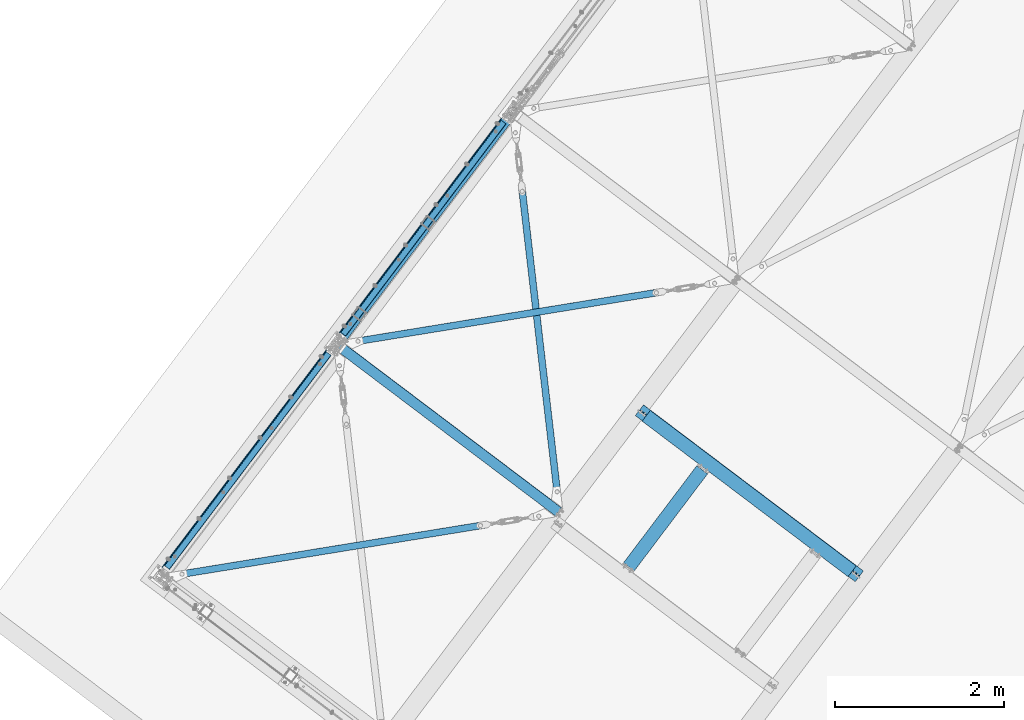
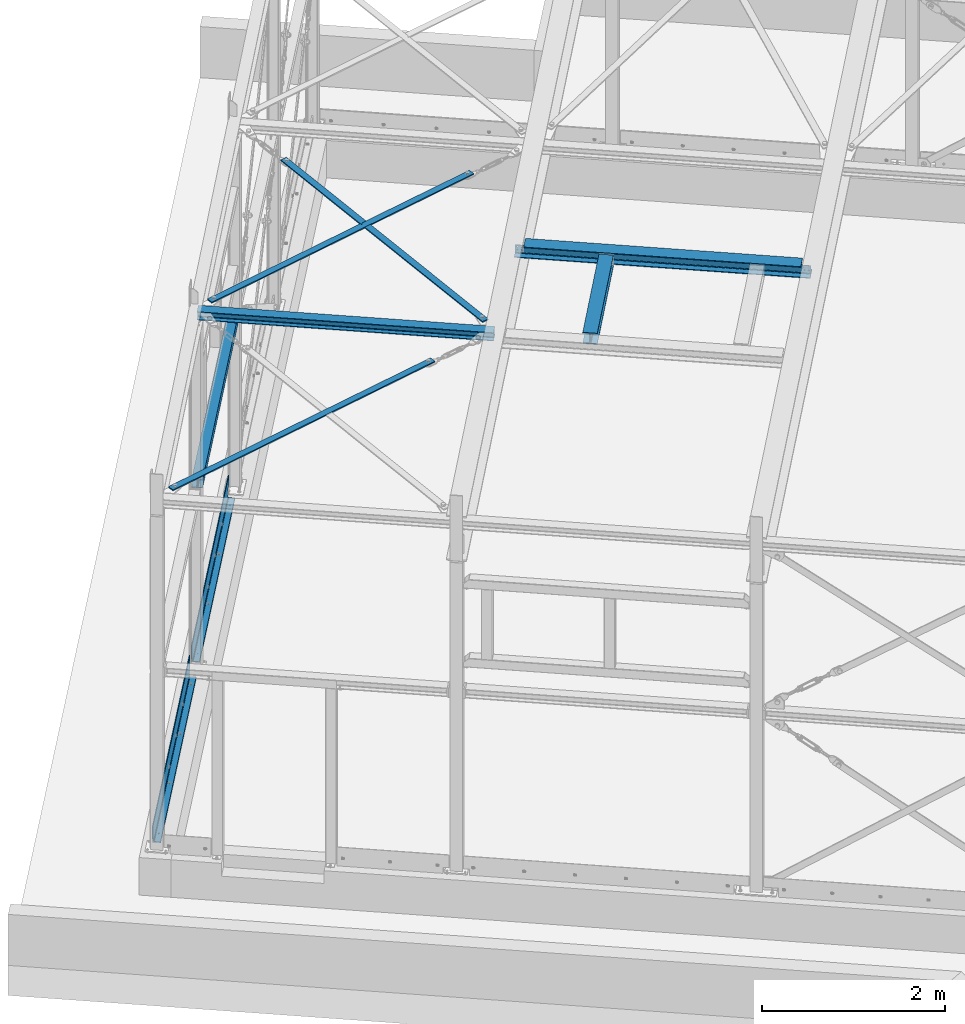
# One storey, part 21 of 476: 5 beams, 4 members, 40 openings.
"""IFC2X3 building model written with IfcOpenShell, lengths in millimetres."""

from ifc_helpers import new_model, entity, si_unit, converted_unit, point, frame, frame_2d, origin, origin_with_axes, origin_2d, origin_2d_with_axis, place, context, project, spatial, polyline, circle_curve, line_curve, trimmed, segment, composite_curve, rectangle, circle, i_section, l_section, outline, extrude, clip, halfspace, material, element, save


model = new_model("IFC2X3")

# Units and contexts
model_context = context("Model", 3, precision=1e-09, world=origin_with_axes())
ifc_project = project(units=[si_unit("LENGTHUNIT", "METRE", prefix="MILLI"), si_unit("AREAUNIT", "SQUARE_METRE"), si_unit("VOLUMEUNIT", "CUBIC_METRE"), converted_unit("PLANEANGLEUNIT", "DEGREE", entity("IfcPlaneAngleMeasure", 0.01745329), si_unit("PLANEANGLEUNIT", "RADIAN"), dimensions=[0, 0, 0, 0, 0, 0, 0])], contexts=[model_context])

# Site, building, storey
site_placement = place(None, origin_with_axes())
site = spatial("IfcSite", under=ifc_project, at=site_placement, Name="mKR Teilneubau & Sanierung BA1 - Ostfildern", CompositionType="ELEMENT")
building_placement = place(site_placement, origin_with_axes())
building = spatial("IfcBuilding", under=site, at=building_placement, Name="Struktur 1", CompositionType="ELEMENT")
storey_placement = place(building_placement, origin_with_axes())
storey = spatial("IfcBuildingStorey", under=building, at=storey_placement, Name="Default Storey", CompositionType="ELEMENT", Elevation=0.0)

# Member, openings
ifc_material = material(Name="S235JR")
member_1_placement = place(None, frame((6159.439711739, 3408.785102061, 5409.867566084), z_axis=(-0.986798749, -0.160487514, -0.021725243), x_axis=(0.018108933, 0.0239618, -0.999548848)))
member_1 = element("IfcMember", 1, at=member_1_placement, inside=storey, material=ifc_material, Name="-", ObjectType="-", context=model_context, shape_type="SweptSolid", body=[
    extrude(rectangle(XDim=15.0, YDim=80.0, at=origin_2d()), origin(), (0.0, 0.0, 1.0), 3695.564817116),
])
opening_1_placement = place(member_1_placement, frame((8.0, 0.0, 45.499), z_axis=(1.0, 0.0, 0.0), x_axis=(0.0, 1.0, 0.0)))
element("IfcOpeningElement", 2, at=opening_1_placement, cuts=member_1, ObjectType="Opening", context=model_context, shape_type="SweptSolid", body=[
    extrude(circle(Radius=14.501, at=frame_2d((0.0, 14.501), x_axis=(1.0, 0.0))), origin(), (0.0, 0.0, -1.0), 16.0),
])
opening_2_placement = place(member_1_placement, frame((8.0, 0.0, 3621.06381712), z_axis=(1.0, 0.0, 0.0), x_axis=(0.0, 1.0, 0.0)))
element("IfcOpeningElement", 3, at=opening_2_placement, cuts=member_1, ObjectType="Opening", context=model_context, shape_type="SweptSolid", body=[
    extrude(circle(Radius=14.501, at=frame_2d((0.0, 14.501), x_axis=(1.0, 0.0))), origin(), (0.0, 0.0, -1.0), 16.0),
])

member_2_placement = place(None, frame((4507.924270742, 4656.27653134, 5409.867572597), z_axis=(-0.115440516, 0.993076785, 0.021725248), x_axis=(0.018097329, 0.023970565, -0.999548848)))
member_2 = element("IfcMember", 4, at=member_2_placement, inside=storey, material=ifc_material, Name="-", ObjectType="-", context=model_context, shape_type="SweptSolid", body=[
    extrude(rectangle(XDim=15.0, YDim=80.0, at=origin_2d()), origin(), (0.0, 0.0, -1.0), 3695.564817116),
])
opening_3_placement = place(member_2_placement, frame((8.0, 0.0, -60.0), z_axis=(-1.0, 0.0, 0.0), x_axis=(0.0, 0.0, -1.0)))
element("IfcOpeningElement", 5, at=opening_3_placement, cuts=member_2, ObjectType="Opening", context=model_context, shape_type="SweptSolid", body=[
    extrude(circle(Radius=14.501, at=origin_2d_with_axis()), origin(), (0.0, 0.0, 1.0), 16.0),
])
opening_4_placement = place(member_2_placement, frame((8.0, 0.0, -3635.56481712), z_axis=(-1.0, 0.0, 0.0), x_axis=(0.0, 0.0, -1.0)))
element("IfcOpeningElement", 6, at=opening_4_placement, cuts=member_2, ObjectType="Opening", context=model_context, shape_type="SweptSolid", body=[
    extrude(circle(Radius=14.501, at=origin_2d_with_axis()), origin(), (0.0, 0.0, 1.0), 16.0),
])

member_3_placement = place(None, frame((4080.003261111, 655.883298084, 5306.226227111), z_axis=(-0.986798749, -0.160487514, -0.021725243), x_axis=(0.018108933, 0.0239618, -0.999548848)))
member_3 = element("IfcMember", 7, at=member_3_placement, inside=storey, material=ifc_material, Name="-", ObjectType="-", context=model_context, shape_type="SweptSolid", body=[
    extrude(rectangle(XDim=15.0, YDim=80.0, at=origin_2d()), origin(), (0.0, 0.0, 1.0), 3695.564817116),
])
opening_5_placement = place(member_3_placement, frame((8.0, 0.0, 45.499), z_axis=(1.0, 0.0, 0.0), x_axis=(0.0, 1.0, 0.0)))
element("IfcOpeningElement", 8, at=opening_5_placement, cuts=member_3, ObjectType="Opening", context=model_context, shape_type="SweptSolid", body=[
    extrude(circle(Radius=14.501, at=frame_2d((0.0, 14.501), x_axis=(1.0, 0.0))), origin(), (0.0, 0.0, -1.0), 16.0),
])
opening_6_placement = place(member_3_placement, frame((8.0, 0.0, 3621.06381712), z_axis=(1.0, 0.0, 0.0), x_axis=(0.0, 1.0, 0.0)))
element("IfcOpeningElement", 9, at=opening_6_placement, cuts=member_3, ObjectType="Opening", context=model_context, shape_type="SweptSolid", body=[
    extrude(circle(Radius=14.501, at=frame_2d((0.0, 14.501), x_axis=(1.0, 0.0))), origin(), (0.0, 0.0, -1.0), 16.0),
])

# Beam
beam_1_placement = place(None, frame((2261.3256453, 2834.817864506, 5260.912694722), z_axis=(-0.797941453, 0.602734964, 0.0), x_axis=(-0.602462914, -0.797581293, -0.030041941)))
element("IfcBeam", 10, at=beam_1_placement, inside=storey, material=ifc_material, Name="-", ObjectType="-", context=model_context, shape_type="Clipping", body=[
    clip(clip(extrude(i_section(OverallWidth=120.0, OverallDepth=114.0, WebThickness=5.0, FlangeThickness=8.0, FilletRadius=12.0, at=origin_2d()), origin(), (0.0, 0.0, -1.0), 3462.017365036), halfspace(frame((3781.408572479, -5149.636126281, -3361.259861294), z_axis=(5.77e-07, 0.0, 1.0), x_axis=(0.999548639, 0.030041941, -5.77e-07)), True)), halfspace(frame((3781.410455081, -5149.636126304, -98.061888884), z_axis=(-5.77e-07, 0.0, -1.0), x_axis=(-0.999548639, -0.030041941, 5.77e-07)), True)),
])

# Beam, openings
beam_2_placement = place(None, frame((4315.169450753, 5506.788966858, 594.499999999), z_axis=(-0.602734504, -0.797941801, 0.0), x_axis=(0.797941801, -0.602734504, 0.0)))
beam_2 = element("IfcBeam", 11, at=beam_2_placement, inside=storey, material=ifc_material, Name="-", ObjectType="-", context=model_context, shape_type="SweptSolid", body=[
    extrude(l_section(Depth=250.0, Width=90.0, Thickness=10.0, FilletRadius=15.0, EdgeRadius=7.5, at=frame_2d((30.5, 29.4))), origin(), (0.0, 0.0, 1.0), 3290.000000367),
])
opening_7_placement = place(beam_2_placement, frame((-115.7, 25.501, 85.001), z_axis=(-1.0, 0.0, 0.0), x_axis=(0.0, 0.0, -1.0)))
element("IfcOpeningElement", 12, at=opening_7_placement, cuts=beam_2, ObjectType="Opening", context=model_context, shape_type="SweptSolid", body=[
    extrude(outline(polyline([(0.0, 0.0), (135.002, 0.0), (135.002, 170.002), (0.0, 170.002), (0.0, 0.0)])), origin(), (0.0, 0.0, -1.0), 290.2),
])
opening_8_placement = place(beam_2_placement, frame((-115.7, -144.501, 3228.497556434), z_axis=(-1.0, 0.0, 0.0), x_axis=(0.0, 0.0, 1.0)))
element("IfcOpeningElement", 13, at=opening_8_placement, cuts=beam_2, ObjectType="Opening", context=model_context, shape_type="SweptSolid", body=[
    extrude(outline(polyline([(0.0, 0.0), (120.594765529, 0.0), (120.594765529, 130.002), (0.0, 130.002), (0.0, 0.0)])), origin(), (0.0, 0.0, -1.0), 290.2),
])
opening_9_placement = place(beam_2_placement, frame((34.4, -95.0, 1656.749278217), z_axis=(0.0, 1.0, 0.0), x_axis=(0.0, 0.0, 1.0)))
element("IfcOpeningElement", 14, at=opening_9_placement, cuts=beam_2, ObjectType="Opening", context=model_context, shape_type="SweptSolid", body=[
    extrude(circle(Radius=6.001, at=frame_2d((475.0, 0.0), x_axis=(1.0, 0.0))), origin(), (0.0, 0.0, 1.0), 11.000000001),
])
opening_10_placement = place(beam_2_placement, frame((34.4, -95.0, 1656.749278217), z_axis=(0.0, 1.0, 0.0), x_axis=(0.0, 0.0, 1.0)))
element("IfcOpeningElement", 15, at=opening_10_placement, cuts=beam_2, ObjectType="Opening", context=model_context, shape_type="SweptSolid", body=[
    extrude(circle(Radius=6.001, at=frame_2d((-475.0, 0.0), x_axis=(1.0, 0.0))), origin(), (0.0, 0.0, 1.0), 11.000000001),
])
opening_11_placement = place(beam_2_placement, frame((34.4, -95.0, 1656.749278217), z_axis=(0.0, 1.0, 0.0), x_axis=(0.0, 0.0, 1.0)))
element("IfcOpeningElement", 16, at=opening_11_placement, cuts=beam_2, ObjectType="Opening", context=model_context, shape_type="SweptSolid", body=[
    extrude(circle(Radius=6.001, at=frame_2d((1425.0, 0.0), x_axis=(1.0, 0.0))), origin(), (0.0, 0.0, 1.0), 11.000000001),
])
opening_12_placement = place(beam_2_placement, frame((34.4, -95.0, 1656.749278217), z_axis=(0.0, 1.0, 0.0), x_axis=(0.0, 0.0, 1.0)))
element("IfcOpeningElement", 17, at=opening_12_placement, cuts=beam_2, ObjectType="Opening", context=model_context, shape_type="SweptSolid", body=[
    extrude(circle(Radius=6.001, at=frame_2d((-1425.0, 0.0), x_axis=(1.0, 0.0))), origin(), (0.0, 0.0, 1.0), 11.000000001),
])
opening_13_placement = place(beam_2_placement, frame((-5.1, 13.5, 1645.000000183), z_axis=(-1.0, 0.0, 0.0), x_axis=(0.0, 0.0, 1.0)))
element("IfcOpeningElement", 18, at=opening_13_placement, cuts=beam_2, ObjectType="Opening", context=model_context, shape_type="SweptSolid", body=[
    extrude(circle(Radius=7.001, at=frame_2d((300.0, 0.0), x_axis=(1.0, 0.0))), origin(), (0.0, 0.0, 1.0), 11.0),
])
opening_14_placement = place(beam_2_placement, frame((-5.1, 13.5, 1645.000000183), z_axis=(-1.0, 0.0, 0.0), x_axis=(0.0, 0.0, 1.0)))
element("IfcOpeningElement", 19, at=opening_14_placement, cuts=beam_2, ObjectType="Opening", context=model_context, shape_type="SweptSolid", body=[
    extrude(circle(Radius=7.001, at=frame_2d((-300.0, 0.0), x_axis=(1.0, 0.0))), origin(), (0.0, 0.0, 1.0), 11.0),
])
opening_15_placement = place(beam_2_placement, frame((-5.1, 13.5, 1645.000000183), z_axis=(-1.0, 0.0, 0.0), x_axis=(0.0, 0.0, 1.0)))
element("IfcOpeningElement", 20, at=opening_15_placement, cuts=beam_2, ObjectType="Opening", context=model_context, shape_type="SweptSolid", body=[
    extrude(circle(Radius=7.001, at=frame_2d((900.0, 0.0), x_axis=(1.0, 0.0))), origin(), (0.0, 0.0, 1.0), 11.0),
])
opening_16_placement = place(beam_2_placement, frame((-5.1, 13.5, 1645.000000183), z_axis=(-1.0, 0.0, 0.0), x_axis=(0.0, 0.0, 1.0)))
element("IfcOpeningElement", 21, at=opening_16_placement, cuts=beam_2, ObjectType="Opening", context=model_context, shape_type="SweptSolid", body=[
    extrude(circle(Radius=7.001, at=frame_2d((-900.0, 0.0), x_axis=(1.0, 0.0))), origin(), (0.0, 0.0, 1.0), 11.0),
])
opening_17_placement = place(beam_2_placement, frame((-5.1, 13.5, 1645.000000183), z_axis=(-1.0, 0.0, 0.0), x_axis=(0.0, 0.0, 1.0)))
element("IfcOpeningElement", 22, at=opening_17_placement, cuts=beam_2, ObjectType="Opening", context=model_context, shape_type="SweptSolid", body=[
    extrude(circle(Radius=7.001, at=frame_2d((1500.0, 0.0), x_axis=(1.0, 0.0))), origin(), (0.0, 0.0, 1.0), 11.0),
])
opening_18_placement = place(beam_2_placement, frame((-5.1, 13.5, 1645.000000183), z_axis=(-1.0, 0.0, 0.0), x_axis=(0.0, 0.0, 1.0)))
element("IfcOpeningElement", 23, at=opening_18_placement, cuts=beam_2, ObjectType="Opening", context=model_context, shape_type="SweptSolid", body=[
    extrude(circle(Radius=7.001, at=frame_2d((-1500.0, 0.0), x_axis=(1.0, 0.0))), origin(), (0.0, 0.0, 1.0), 11.0),
])

# Member
member_4_placement = place(None, frame((5642.814842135, -16.709538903, 5294.7762713), z_axis=(-0.602462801, -0.797581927, -0.030027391), x_axis=(-0.797941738, 0.602734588, 0.0)))
element("IfcMember", 24, at=member_4_placement, inside=storey, material=ifc_material, Name="-", ObjectType="-", context=model_context, shape_type="Clipping", body=[
    clip(clip(extrude(i_section(OverallWidth=160.0, OverallDepth=152.0, WebThickness=6.0, FlangeThickness=9.0, FilletRadius=15.0, at=origin_2d()), origin(), (0.0, 0.0, -1.0), 1880.689827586), halfspace(frame((4512.708880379, 5190.662357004, -220.345913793), z_axis=(0.0, 0.0, -1.0), x_axis=(1.0, 0.0, 0.0)), True)), halfspace(frame((4512.708880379, 5190.662357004, -1660.343913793), z_axis=(0.0, 0.0, 1.0), x_axis=(-1.0, 0.0, 0.0)), True)),
])

# Beam
beam_3_placement = place(None, frame((4453.884995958, 5605.981714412, 2912.000000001), z_axis=(0.602734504, 0.797941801, 0.0), x_axis=(0.797941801, -0.602734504, 0.0)))
element("IfcBeam", 25, at=beam_3_placement, inside=storey, material=ifc_material, Name="-", ObjectType="-", context=model_context, shape_type="Clipping", body=[
    clip(clip(extrude(i_section(OverallWidth=120.0, OverallDepth=114.0, WebThickness=5.0, FlangeThickness=8.0, FilletRadius=12.0, at=origin_2d()), origin(), (0.0, 0.0, -1.0), 3615.51737069), halfspace(frame((-175.022404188, 2912.000000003, -182.759685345), z_axis=(0.0, 0.0, -1.0), x_axis=(1.0, 0.0, 0.0)), True)), halfspace(frame((-175.022404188, 2912.000000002, -3432.757685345), z_axis=(0.0, 0.0, 1.0), x_axis=(-1.0, 0.0, 0.0)), True)),
])

# Beam, openings
beam_4_placement = place(None, frame((5793.319187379, 2087.244132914, 5347.935113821), z_axis=(-0.797941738, 0.602734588, 0.0), x_axis=(0.602462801, 0.797581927, 0.030027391)))
beam_4 = element("IfcBeam", 26, at=beam_4_placement, inside=storey, material=ifc_material, Name="-", ObjectType="-", context=model_context, shape_type="Clipping", body=[
    clip(clip(extrude(i_section(OverallWidth=160.0, OverallDepth=152.0, WebThickness=6.0, FlangeThickness=9.0, FilletRadius=15.0, at=origin_2d()), origin(), (0.0, 0.0, -1.0), 3520.689898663), halfspace(frame((-5315.592037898, 5190.662357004, -3389.343953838), z_axis=(0.0, 0.0, 1.0), x_axis=(-0.999549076, -0.030027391, 0.0)), True)), halfspace(frame((-5315.592037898, 5190.662357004, -131.345918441), z_axis=(0.0, 0.0, -1.0), x_axis=(0.999549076, 0.030027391, 0.0)), True)),
])
opening_19_placement = place(beam_4_placement, frame((1500.0000131, 0.0, -3410.344827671), z_axis=(-1.0, 0.0, -1.05e-07), x_axis=(1.05e-07, 0.0, -1.0)))
element("IfcOpeningElement", 27, at=opening_19_placement, cuts=beam_4, ObjectType="Opening", context=model_context, shape_type="SweptSolid", body=[
    extrude(outline(composite_curve([segment(trimmed(line_curve((-20.200022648, 42.024069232), (0.0, 1.0), 34.775930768), [point((-20.200022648, 42.024069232))], [point((-20.200022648, 76.8))], True, "CARTESIAN"), True, "CONTINUOUS"), segment(trimmed(line_curve((-20.200022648, 76.8), (-1.0, 0.0), 104.8), [point((-20.200022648, 76.8))], [point((-125.000022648, 76.8))], True, "CARTESIAN"), True, "CONTINUOUS"), segment(trimmed(line_curve((-125.000022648, 76.8), (0.0, -1.0), 24.775930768), [point((-125.000022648, 76.8))], [point((-125.000022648, 52.024069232))], True, "CARTESIAN"), True, "CONTINUOUS"), segment(trimmed(circle_curve(frame_2d((-115.000022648, 52.024069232), x_axis=(1.0, 0.0)), 10.0), [point((-125.000022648, 52.024069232))], [point((-115.000022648, 42.024069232))], True, "CARTESIAN"), True, "CONTINUOUS"), segment(trimmed(line_curve((-115.000022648, 42.024069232), (1.0, 0.0), 94.8), [point((-115.000022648, 42.024069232))], [point((-20.200022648, 42.024069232))], True, "CARTESIAN"), True, "CONTINUOUS")], self_intersect=False)), origin(), (0.0, 0.0, 1.0), 3000.0),
])
opening_20_placement = place(beam_4_placement, frame((-1500.0000131, 0.0, -110.345070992), z_axis=(1.0, 0.0, 1.05e-07), x_axis=(-1.05e-07, 0.0, 1.0)))
element("IfcOpeningElement", 28, at=opening_20_placement, cuts=beam_4, ObjectType="Opening", context=model_context, shape_type="SweptSolid", body=[
    extrude(outline(composite_curve([segment(trimmed(line_curve((-20.199996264, 42.024068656), (0.0, 1.0), 34.775931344), [point((-20.199996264, 42.024068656))], [point((-20.199996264, 76.8))], True, "CARTESIAN"), True, "CONTINUOUS"), segment(trimmed(line_curve((-20.199996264, 76.8), (-1.0, 0.0), 104.8), [point((-20.199996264, 76.8))], [point((-124.999996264, 76.8))], True, "CARTESIAN"), True, "CONTINUOUS"), segment(trimmed(line_curve((-124.999996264, 76.8), (0.0, -1.0), 24.775931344), [point((-124.999996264, 76.8))], [point((-124.999996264, 52.024068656))], True, "CARTESIAN"), True, "CONTINUOUS"), segment(trimmed(circle_curve(frame_2d((-114.999996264, 52.024068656), x_axis=(1.0, 0.0)), 10.0), [point((-124.999996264, 52.024068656))], [point((-114.999996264, 42.024068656))], True, "CARTESIAN"), True, "CONTINUOUS"), segment(trimmed(line_curve((-114.999996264, 42.024068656), (1.0, 0.0), 94.8), [point((-114.999996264, 42.024068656))], [point((-20.199996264, 42.024068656))], True, "CARTESIAN"), True, "CONTINUOUS")], self_intersect=False)), origin(), (0.0, 0.0, 1.0), 3000.0),
])
opening_21_placement = place(beam_4_placement, frame((3.5, 22.975931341, -199.343910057), z_axis=(1.0, 0.0, 0.0), x_axis=(0.0, 1.0, 0.0)))
element("IfcOpeningElement", 29, at=opening_21_placement, cuts=beam_4, ObjectType="Opening", context=model_context, shape_type="SweptSolid", body=[
    extrude(circle(Radius=7.001, at=frame_2d((0.0, -7.001), x_axis=(1.0, 0.0))), origin(), (0.0, 0.0, -1.0), 7.0),
])
opening_22_placement = place(beam_4_placement, frame((3.5, 22.975931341, -149.343910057), z_axis=(1.0, 0.0, 0.0), x_axis=(0.0, 1.0, 0.0)))
element("IfcOpeningElement", 30, at=opening_22_placement, cuts=beam_4, ObjectType="Opening", context=model_context, shape_type="SweptSolid", body=[
    extrude(circle(Radius=7.001, at=frame_2d((0.0, -7.001), x_axis=(1.0, 0.0))), origin(), (0.0, 0.0, -1.0), 7.0),
])
opening_23_placement = place(beam_4_placement, frame((3.5, -17.024068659, -199.343910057), z_axis=(1.0, 0.0, 0.0), x_axis=(0.0, 1.0, 0.0)))
element("IfcOpeningElement", 31, at=opening_23_placement, cuts=beam_4, ObjectType="Opening", context=model_context, shape_type="SweptSolid", body=[
    extrude(circle(Radius=7.001, at=frame_2d((0.0, -7.001), x_axis=(1.0, 0.0))), origin(), (0.0, 0.0, -1.0), 7.0),
])
opening_24_placement = place(beam_4_placement, frame((3.5, -17.024068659, -149.343910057), z_axis=(1.0, 0.0, 0.0), x_axis=(0.0, 1.0, 0.0)))
element("IfcOpeningElement", 32, at=opening_24_placement, cuts=beam_4, ObjectType="Opening", context=model_context, shape_type="SweptSolid", body=[
    extrude(circle(Radius=7.001, at=frame_2d((0.0, -7.001), x_axis=(1.0, 0.0))), origin(), (0.0, 0.0, -1.0), 7.0),
])
opening_25_placement = place(beam_4_placement, frame((3.5, -17.024069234, -3364.344962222), z_axis=(-1.0, 0.0, 0.0), x_axis=(0.0, 0.0, 1.0)))
element("IfcOpeningElement", 33, at=opening_25_placement, cuts=beam_4, ObjectType="Opening", context=model_context, shape_type="SweptSolid", body=[
    extrude(circle(Radius=7.001, at=frame_2d((50.0, 40.0), x_axis=(1.0, 0.0))), origin(), (0.0, 0.0, 1.0), 7.0),
])
opening_26_placement = place(beam_4_placement, frame((3.5, -17.024069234, -3364.344962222), z_axis=(-1.0, 0.0, 0.0), x_axis=(0.0, 0.0, 1.0)))
element("IfcOpeningElement", 34, at=opening_26_placement, cuts=beam_4, ObjectType="Opening", context=model_context, shape_type="SweptSolid", body=[
    extrude(circle(Radius=7.001, at=frame_2d((0.0, 40.0), x_axis=(1.0, 0.0))), origin(), (0.0, 0.0, 1.0), 7.0),
])
opening_27_placement = place(beam_4_placement, frame((3.5, -17.024069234, -3364.344962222), z_axis=(-1.0, 0.0, 0.0), x_axis=(0.0, 0.0, 1.0)))
element("IfcOpeningElement", 35, at=opening_27_placement, cuts=beam_4, ObjectType="Opening", context=model_context, shape_type="SweptSolid", body=[
    extrude(circle(Radius=7.001, at=frame_2d((50.0, 0.0), x_axis=(1.0, 0.0))), origin(), (0.0, 0.0, 1.0), 7.0),
])
opening_28_placement = place(beam_4_placement, frame((3.5, -17.024069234, -3364.344962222), z_axis=(-1.0, 0.0, 0.0), x_axis=(0.0, 0.0, 1.0)))
element("IfcOpeningElement", 36, at=opening_28_placement, cuts=beam_4, ObjectType="Opening", context=model_context, shape_type="SweptSolid", body=[
    extrude(circle(Radius=7.001, at=origin_2d_with_axis()), origin(), (0.0, 0.0, 1.0), 7.0),
])

beam_5_placement = place(None, frame((2235.735410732, 2753.889754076, 594.5), z_axis=(-0.602734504, -0.797941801, 0.0), x_axis=(0.797941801, -0.602734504, 0.0)))
beam_5 = element("IfcBeam", 37, at=beam_5_placement, inside=storey, material=ifc_material, Name="-", ObjectType="-", context=model_context, shape_type="SweptSolid", body=[
    extrude(l_section(Depth=250.0, Width=90.0, Thickness=10.0, FilletRadius=15.0, EdgeRadius=7.5, at=frame_2d((30.5, 29.4))), origin(), (0.0, 0.0, 1.0), 3293.500000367),
])
opening_29_placement = place(beam_5_placement, frame((-115.7, -14.499, 65.001), z_axis=(-1.0, 0.0, 0.0), x_axis=(0.0, 0.0, -1.0)))
element("IfcOpeningElement", 38, at=opening_29_placement, cuts=beam_5, ObjectType="Opening", context=model_context, shape_type="SweptSolid", body=[
    extrude(outline(polyline([(0.0, 0.0), (115.002, 0.0), (115.002, 130.002), (0.0, 130.002), (0.0, 0.0)])), origin(), (0.0, 0.0, -1.0), 290.2),
])
opening_30_placement = place(beam_5_placement, frame((-115.7, -144.501, 3236.497556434), z_axis=(-1.0, 0.0, 0.0), x_axis=(0.0, 0.0, 1.0)))
element("IfcOpeningElement", 39, at=opening_30_placement, cuts=beam_5, ObjectType="Opening", context=model_context, shape_type="SweptSolid", body=[
    extrude(outline(polyline([(0.0, 0.0), (112.594765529, 0.0), (112.594765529, 130.002), (0.0, 130.002), (0.0, 0.0)])), origin(), (0.0, 0.0, -1.0), 290.2),
])
opening_31_placement = place(beam_5_placement, frame((34.4, -95.0, 1650.749278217), z_axis=(0.0, 1.0, 0.0), x_axis=(0.0, 0.0, 1.0)))
element("IfcOpeningElement", 40, at=opening_31_placement, cuts=beam_5, ObjectType="Opening", context=model_context, shape_type="SweptSolid", body=[
    extrude(circle(Radius=6.001, at=frame_2d((475.0, 0.0), x_axis=(1.0, 0.0))), origin(), (0.0, 0.0, 1.0), 11.000000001),
])
opening_32_placement = place(beam_5_placement, frame((34.4, -95.0, 1650.749278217), z_axis=(0.0, 1.0, 0.0), x_axis=(0.0, 0.0, 1.0)))
element("IfcOpeningElement", 41, at=opening_32_placement, cuts=beam_5, ObjectType="Opening", context=model_context, shape_type="SweptSolid", body=[
    extrude(circle(Radius=6.001, at=frame_2d((-475.0, 0.0), x_axis=(1.0, 0.0))), origin(), (0.0, 0.0, 1.0), 11.000000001),
])
opening_33_placement = place(beam_5_placement, frame((34.4, -95.0, 1650.749278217), z_axis=(0.0, 1.0, 0.0), x_axis=(0.0, 0.0, 1.0)))
element("IfcOpeningElement", 42, at=opening_33_placement, cuts=beam_5, ObjectType="Opening", context=model_context, shape_type="SweptSolid", body=[
    extrude(circle(Radius=6.001, at=frame_2d((1425.0, 0.0), x_axis=(1.0, 0.0))), origin(), (0.0, 0.0, 1.0), 11.000000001),
])
opening_34_placement = place(beam_5_placement, frame((34.4, -95.0, 1650.749278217), z_axis=(0.0, 1.0, 0.0), x_axis=(0.0, 0.0, 1.0)))
element("IfcOpeningElement", 43, at=opening_34_placement, cuts=beam_5, ObjectType="Opening", context=model_context, shape_type="SweptSolid", body=[
    extrude(circle(Radius=6.001, at=frame_2d((-1425.0, 0.0), x_axis=(1.0, 0.0))), origin(), (0.0, 0.0, 1.0), 11.000000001),
])
opening_35_placement = place(beam_5_placement, frame((-5.1, 13.5, 1646.750000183), z_axis=(-1.0, 0.0, 0.0), x_axis=(0.0, 0.0, 1.0)))
element("IfcOpeningElement", 44, at=opening_35_placement, cuts=beam_5, ObjectType="Opening", context=model_context, shape_type="SweptSolid", body=[
    extrude(circle(Radius=7.001, at=frame_2d((300.0, 0.0), x_axis=(1.0, 0.0))), origin(), (0.0, 0.0, 1.0), 11.0),
])
opening_36_placement = place(beam_5_placement, frame((-5.1, 13.5, 1646.750000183), z_axis=(-1.0, 0.0, 0.0), x_axis=(0.0, 0.0, 1.0)))
element("IfcOpeningElement", 45, at=opening_36_placement, cuts=beam_5, ObjectType="Opening", context=model_context, shape_type="SweptSolid", body=[
    extrude(circle(Radius=7.001, at=frame_2d((-300.0, 0.0), x_axis=(1.0, 0.0))), origin(), (0.0, 0.0, 1.0), 11.0),
])
opening_37_placement = place(beam_5_placement, frame((-5.1, 13.5, 1646.750000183), z_axis=(-1.0, 0.0, 0.0), x_axis=(0.0, 0.0, 1.0)))
element("IfcOpeningElement", 46, at=opening_37_placement, cuts=beam_5, ObjectType="Opening", context=model_context, shape_type="SweptSolid", body=[
    extrude(circle(Radius=7.001, at=frame_2d((900.0, 0.0), x_axis=(1.0, 0.0))), origin(), (0.0, 0.0, 1.0), 11.0),
])
opening_38_placement = place(beam_5_placement, frame((-5.1, 13.5, 1646.750000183), z_axis=(-1.0, 0.0, 0.0), x_axis=(0.0, 0.0, 1.0)))
element("IfcOpeningElement", 47, at=opening_38_placement, cuts=beam_5, ObjectType="Opening", context=model_context, shape_type="SweptSolid", body=[
    extrude(circle(Radius=7.001, at=frame_2d((-900.0, 0.0), x_axis=(1.0, 0.0))), origin(), (0.0, 0.0, 1.0), 11.0),
])
opening_39_placement = place(beam_5_placement, frame((-5.1, 13.5, 1646.750000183), z_axis=(-1.0, 0.0, 0.0), x_axis=(0.0, 0.0, 1.0)))
element("IfcOpeningElement", 48, at=opening_39_placement, cuts=beam_5, ObjectType="Opening", context=model_context, shape_type="SweptSolid", body=[
    extrude(circle(Radius=7.001, at=frame_2d((1500.0, 0.0), x_axis=(1.0, 0.0))), origin(), (0.0, 0.0, 1.0), 11.0),
])
opening_40_placement = place(beam_5_placement, frame((-5.1, 13.5, 1646.750000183), z_axis=(-1.0, 0.0, 0.0), x_axis=(0.0, 0.0, 1.0)))
element("IfcOpeningElement", 49, at=opening_40_placement, cuts=beam_5, ObjectType="Opening", context=model_context, shape_type="SweptSolid", body=[
    extrude(circle(Radius=7.001, at=frame_2d((-1500.0, 0.0), x_axis=(1.0, 0.0))), origin(), (0.0, 0.0, 1.0), 11.0),
])

save(model, "model.ifc")
